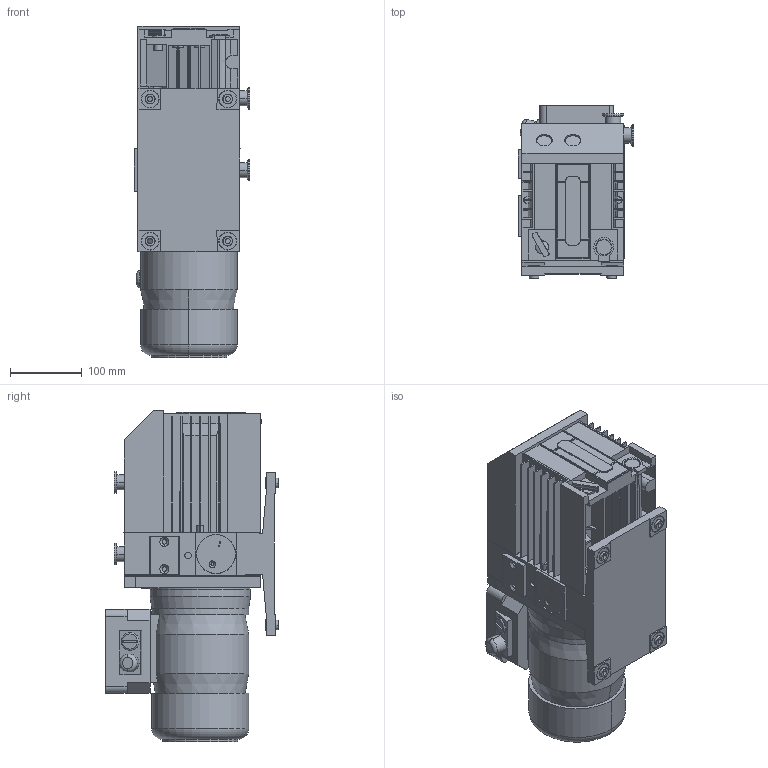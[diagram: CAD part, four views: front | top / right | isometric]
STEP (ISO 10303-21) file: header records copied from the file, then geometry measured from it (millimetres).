
FILE_DESCRIPTION((''),'2;1');
FILE_NAME('300593858_Y19_000_ASM','2016-03-09T',('56762'),('Copyright by Leybold GmbH'),'PRO/ENGINEER BY PARAMETRIC TECHNOLOGY CORPORATION, 2013320','PRO/ENGINEER BY PARAMETRIC TECHNOLOGY CORPORATION, 2013320','');
FILE_SCHEMA(('AUTOMOTIVE_DESIGN { 1 0 10303 214 1 1 1 1 }'));
Length unit declared in the file: millimetre
Products named in the file (19): 300593853_Y19_000; 300593834_Y19_000; 300593835_Y19_000; 300593838_Y19_000; 300593841_Y19_000; 300593851_Y19_000; 300593842_Y19_000; 300590946_Y19_000; 300593840_Y19_000; 300593852_Y19_000; 300593857_Y19_000_ASM; 300590938_Y19_000; 300593703_Y19_000; 300590935_Y19_000; 300590913_Y19_000; 300590922_Y19_000_ASM; 300593862_Y19_000; 300593863_Y19_000; 300593858_Y19_000_ASM
Assembly tree (26 placements, depth 3):
  300593858_Y19_000_ASM
    300593857_Y19_000_ASM
      300593853_Y19_000
      300593834_Y19_000
      300593835_Y19_000
      300593838_Y19_000
      300593841_Y19_000
      300593851_Y19_000
      300593842_Y19_000
      300590946_Y19_000
      300593840_Y19_000
      300593852_Y19_000
    300590938_Y19_000  x4
    300593703_Y19_000
    300590935_Y19_000  x3
    300590922_Y19_000_ASM
      300590913_Y19_000
    300593862_Y19_000  x4
    300593863_Y19_000
Bounding box: 161.4 x 241 x 461.34 mm (x, y, z)
Volume: 10125369.9 mm3; surface area: 876020.5 mm2
Topology: 23 solids, 41 shells, 1113 faces, 2813 edges, 1845 vertices
Faces by surface type: plane 722, cylinder 270, cone 115, torus 6
Entity records: 28533 total; most frequent: CARTESIAN_POINT 5059, DIRECTION 4712, ORIENTED_EDGE 4586, EDGE_CURVE 2293, VECTOR 1700, LINE 1700, VERTEX_POINT 1509, AXIS2_PLACEMENT_3D 1506
